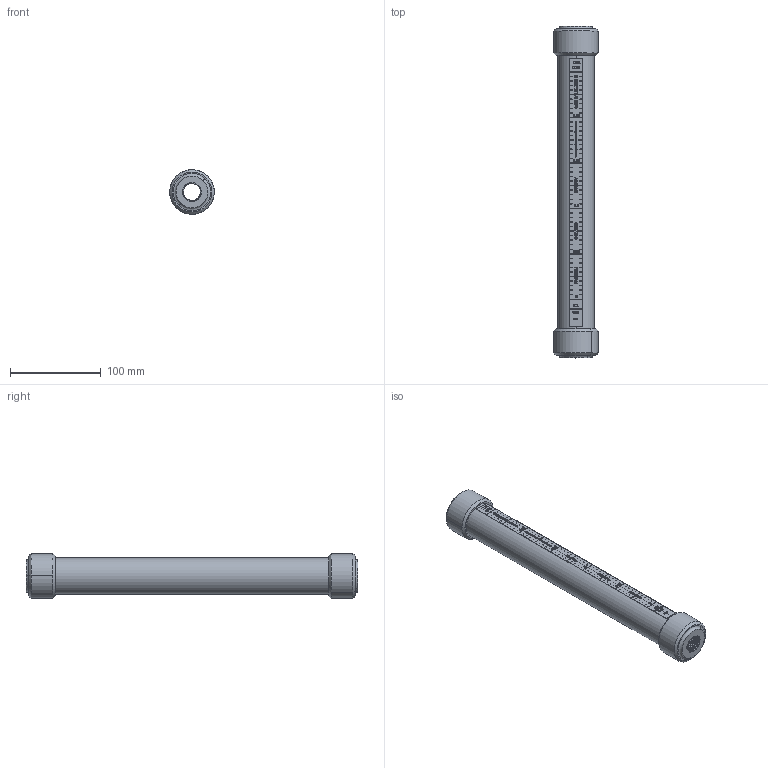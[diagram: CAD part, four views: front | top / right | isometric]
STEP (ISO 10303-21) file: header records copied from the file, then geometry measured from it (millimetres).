
FILE_DESCRIPTION (( 'STEP AP214' ), '1' );
FILE_NAME ('0.25LTR-C-11-00 (assembly part).STEP', '2025-03-24T14:31:14', ( '' ), ( '' ), 'SwSTEP 2.0', 'SolidWorks 2024', '' );
FILE_SCHEMA (( 'AUTOMOTIVE_DESIGN' ));
Length unit declared in the file: millimetre
Products named in the file (1): 0.25LTR-C-11-00 (assembly part)
Bounding box: 48.96 x 365 x 48.96 mm (x, y, z)
Volume: 146608 mm3; surface area: 110861.1 mm2
Topology: 4 solids, 4 shells, 1817 faces, 4984 edges, 3320 vertices
Faces by surface type: plane 1051, bspline 569, cylinder 185, cone 8, torus 4
Entity records: 112799 total; most frequent: CARTESIAN_POINT 50393, ORIENTED_EDGE 9968, DIRECTION 6590, EDGE_CURVE 4984, VECTOR 3448, LINE 3448, VERTEX_POINT 3320, EDGE_LOOP 1968
